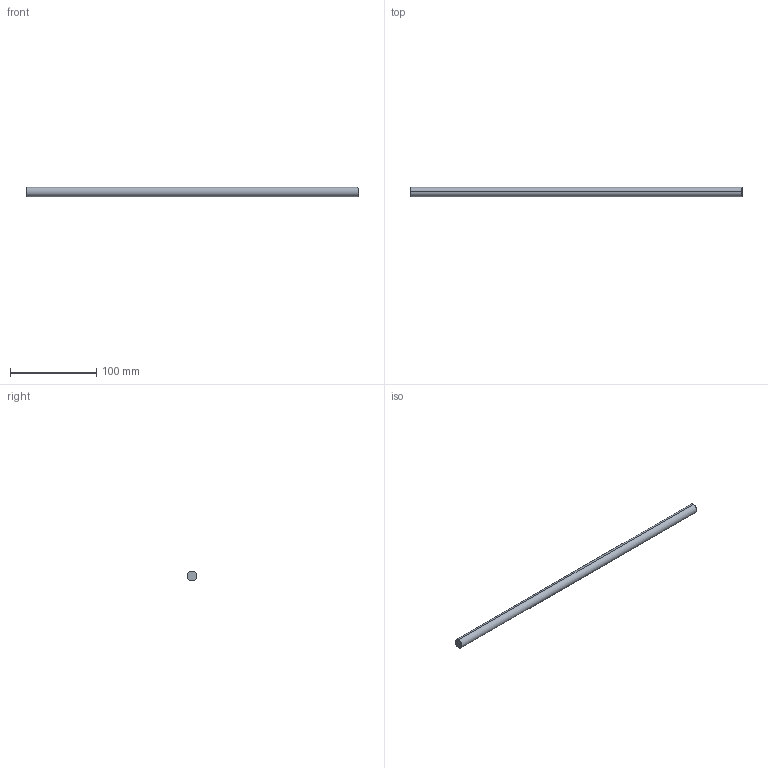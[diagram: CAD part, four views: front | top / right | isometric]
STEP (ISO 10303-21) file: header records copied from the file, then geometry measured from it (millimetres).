
FILE_DESCRIPTION (( 'STEP AP214' ), '1' );
FILE_NAME ('Querreling_Frontblende_Innenlade_KS-19_25mm-Halter_KAB-500.step', '2010-09-22T15:05:45', ( 'grass' ), ( '' ), 'SwSTEP 2.0', 'SolidWorks 2010', '' );
FILE_SCHEMA (( 'AUTOMOTIVE_DESIGN' ));
Length unit declared in the file: millimetre
Products named in the file (1): Querreling_Frontblende_Innenlade_KS-19_25mm-Halter_KAB-500
Bounding box: 384 x 11 x 11 mm (x, y, z)
Volume: 36492.7 mm3; surface area: 13460.2 mm2
Topology: 1 solids, 1 shells, 4 faces, 6 edges, 4 vertices
Faces by surface type: cylinder 2, plane 2
Entity records: 128 total; most frequent: DIRECTION 20, CARTESIAN_POINT 15, ORIENTED_EDGE 12, AXIS2_PLACEMENT_3D 9, EDGE_CURVE 6, FACE_OUTER_BOUND 4, CIRCLE 4, EDGE_LOOP 4
